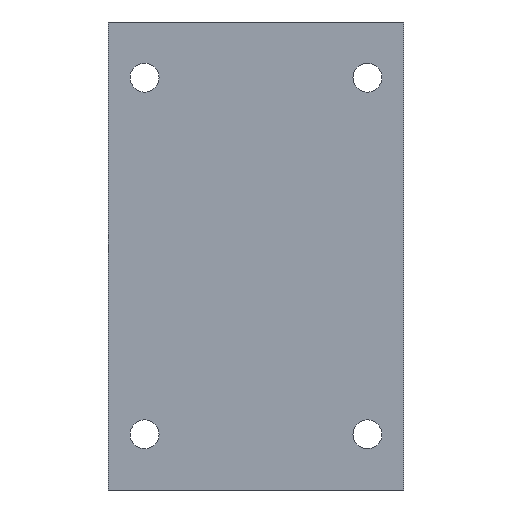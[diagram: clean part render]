
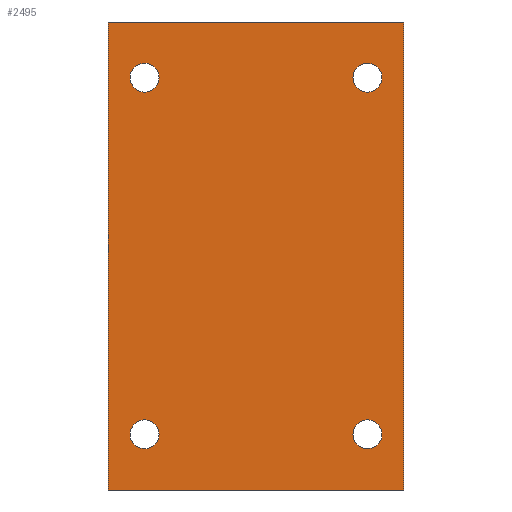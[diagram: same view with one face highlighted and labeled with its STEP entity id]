
A CAD part, front view. The second image highlights one B-rep face of the part: STEP entity #2495.
In plain terms, the highlighted planar face has unit normal (0, -1, 0).
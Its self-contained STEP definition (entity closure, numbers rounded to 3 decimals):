
#10 = CARTESIAN_POINT ( 'NONE',  ( -26.5, -17.5, -42. ) ) ;
#12 = EDGE_LOOP ( 'NONE', ( #207, #2662, #2355, #225 ) ) ;
#15 = VECTOR ( 'NONE', #2369, 1000. ) ;
#121 = ORIENTED_EDGE ( 'NONE', *, *, #1243, .F. ) ;
#182 = CARTESIAN_POINT ( 'NONE',  ( -26.5, -17.5, -42. ) ) ;
#189 = CARTESIAN_POINT ( 'NONE',  ( -26.5, -17.5, 42. ) ) ;
#205 = VECTOR ( 'NONE', #2877, 1000. ) ;
#207 = ORIENTED_EDGE ( 'NONE', *, *, #334, .T. ) ;
#223 = CIRCLE ( 'NONE', #1423, 2.6 ) ;
#225 = ORIENTED_EDGE ( 'NONE', *, *, #288, .T. ) ;
#257 = CARTESIAN_POINT ( 'NONE',  ( -26.5, -17.5, 42. ) ) ;
#288 = EDGE_CURVE ( 'NONE', #384, #3181, #1490, .T. ) ;
#334 = EDGE_CURVE ( 'NONE', #3181, #2097, #2582, .T. ) ;
#375 = VERTEX_POINT ( 'NONE', #1019 ) ;
#384 = VERTEX_POINT ( 'NONE', #1628 ) ;
#420 = AXIS2_PLACEMENT_3D ( 'NONE', #1408, #1914, #605 ) ;
#467 = LINE ( 'NONE', #3115, #2467 ) ;
#492 = CIRCLE ( 'NONE', #2410, 2.6 ) ;
#582 = DIRECTION ( 'NONE',  ( 0., 0., -1. ) ) ;
#605 = DIRECTION ( 'NONE',  ( 0., 0., -1. ) ) ;
#619 = DIRECTION ( 'NONE',  ( 0., 0., -1. ) ) ;
#632 = CARTESIAN_POINT ( 'NONE',  ( 20., -17.5, 29.4 ) ) ;
#688 = EDGE_CURVE ( 'NONE', #1696, #375, #1800, .T. ) ;
#691 = DIRECTION ( 'NONE',  ( 0., -1., 0. ) ) ;
#720 = EDGE_CURVE ( 'NONE', #384, #2177, #1064, .T. ) ;
#768 = PLANE ( 'NONE',  #2191 ) ;
#821 = CARTESIAN_POINT ( 'NONE',  ( 26.5, -17.5, -42. ) ) ;
#847 = DIRECTION ( 'NONE',  ( 0., -1., 0. ) ) ;
#871 = DIRECTION ( 'NONE',  ( 0., -1., 0. ) ) ;
#897 = ORIENTED_EDGE ( 'NONE', *, *, #3380, .F. ) ;
#919 = AXIS2_PLACEMENT_3D ( 'NONE', #3224, #847, #2261 ) ;
#920 = ORIENTED_EDGE ( 'NONE', *, *, #3244, .F. ) ;
#994 = CARTESIAN_POINT ( 'NONE',  ( 20., -17.5, -29.4 ) ) ;
#1019 = CARTESIAN_POINT ( 'NONE',  ( 20., -17.5, 34.6 ) ) ;
#1035 = DIRECTION ( 'NONE',  ( 0., -1., 0. ) ) ;
#1064 = LINE ( 'NONE', #3147, #205 ) ;
#1101 = CARTESIAN_POINT ( 'NONE',  ( 20., -17.5, 32. ) ) ;
#1102 = EDGE_CURVE ( 'NONE', #1927, #2142, #2180, .T. ) ;
#1131 = AXIS2_PLACEMENT_3D ( 'NONE', #2494, #2543, #1485 ) ;
#1185 = CARTESIAN_POINT ( 'NONE',  ( 20., -17.5, -34.6 ) ) ;
#1234 = VERTEX_POINT ( 'NONE', #994 ) ;
#1236 = EDGE_CURVE ( 'NONE', #2009, #3337, #2830, .T. ) ;
#1238 = VERTEX_POINT ( 'NONE', #1185 ) ;
#1243 = EDGE_CURVE ( 'NONE', #1238, #1234, #1464, .T. ) ;
#1280 = EDGE_LOOP ( 'NONE', ( #1990, #3036 ) ) ;
#1284 = FACE_BOUND ( 'NONE', #1756, .T. ) ;
#1303 = DIRECTION ( 'NONE',  ( 0., 1., 0. ) ) ;
#1349 = AXIS2_PLACEMENT_3D ( 'NONE', #3311, #691, #1729 ) ;
#1395 = ORIENTED_EDGE ( 'NONE', *, *, #1102, .F. ) ;
#1408 = CARTESIAN_POINT ( 'NONE',  ( -20., -17.5, 32. ) ) ;
#1423 = AXIS2_PLACEMENT_3D ( 'NONE', #2184, #871, #619 ) ;
#1464 = CIRCLE ( 'NONE', #1349, 2.6 ) ;
#1485 = DIRECTION ( 'NONE',  ( 0., 0., -1. ) ) ;
#1490 = LINE ( 'NONE', #189, #2751 ) ;
#1545 = FACE_OUTER_BOUND ( 'NONE', #12, .T. ) ;
#1566 = FACE_BOUND ( 'NONE', #1280, .T. ) ;
#1628 = CARTESIAN_POINT ( 'NONE',  ( -26.5, -17.5, 42. ) ) ;
#1696 = VERTEX_POINT ( 'NONE', #632 ) ;
#1729 = DIRECTION ( 'NONE',  ( 0., 0., -1. ) ) ;
#1756 = EDGE_LOOP ( 'NONE', ( #121, #920 ) ) ;
#1762 = EDGE_LOOP ( 'NONE', ( #2898, #897 ) ) ;
#1800 = CIRCLE ( 'NONE', #3250, 2.6 ) ;
#1890 = CARTESIAN_POINT ( 'NONE',  ( -20., -17.5, 34.6 ) ) ;
#1914 = DIRECTION ( 'NONE',  ( 0., -1., 0. ) ) ;
#1927 = VERTEX_POINT ( 'NONE', #2811 ) ;
#1944 = CARTESIAN_POINT ( 'NONE',  ( 26.5, -17.5, 42. ) ) ;
#1990 = ORIENTED_EDGE ( 'NONE', *, *, #2515, .F. ) ;
#2009 = VERTEX_POINT ( 'NONE', #2653 ) ;
#2030 = CIRCLE ( 'NONE', #919, 2.6 ) ;
#2097 = VERTEX_POINT ( 'NONE', #821 ) ;
#2142 = VERTEX_POINT ( 'NONE', #1890 ) ;
#2177 = VERTEX_POINT ( 'NONE', #1944 ) ;
#2180 = CIRCLE ( 'NONE', #420, 2.6 ) ;
#2184 = CARTESIAN_POINT ( 'NONE',  ( 20., -17.5, 32. ) ) ;
#2191 = AXIS2_PLACEMENT_3D ( 'NONE', #257, #1303, #2356 ) ;
#2261 = DIRECTION ( 'NONE',  ( 0., 0., -1. ) ) ;
#2338 = FACE_BOUND ( 'NONE', #3139, .T. ) ;
#2355 = ORIENTED_EDGE ( 'NONE', *, *, #720, .F. ) ;
#2356 = DIRECTION ( 'NONE',  ( 0., 0., 1. ) ) ;
#2369 = DIRECTION ( 'NONE',  ( 1., 0., 0. ) ) ;
#2373 = ORIENTED_EDGE ( 'NONE', *, *, #2740, .F. ) ;
#2410 = AXIS2_PLACEMENT_3D ( 'NONE', #3189, #3174, #582 ) ;
#2467 = VECTOR ( 'NONE', #2555, 1000. ) ;
#2494 = CARTESIAN_POINT ( 'NONE',  ( -20., -17.5, -32. ) ) ;
#2495 = ADVANCED_FACE ( 'NONE', ( #1545, #1284, #2338, #1566, #3111 ), #768, .F. ) ;
#2515 = EDGE_CURVE ( 'NONE', #3337, #2009, #2030, .T. ) ;
#2543 = DIRECTION ( 'NONE',  ( 0., -1., 0. ) ) ;
#2555 = DIRECTION ( 'NONE',  ( 0., 0., -1. ) ) ;
#2565 = DIRECTION ( 'NONE',  ( 0., 0., -1. ) ) ;
#2582 = LINE ( 'NONE', #10, #15 ) ;
#2642 = DIRECTION ( 'NONE',  ( 0., -1., 0. ) ) ;
#2653 = CARTESIAN_POINT ( 'NONE',  ( -20., -17.5, -29.4 ) ) ;
#2659 = DIRECTION ( 'NONE',  ( 0., 0., -1. ) ) ;
#2662 = ORIENTED_EDGE ( 'NONE', *, *, #3113, .F. ) ;
#2740 = EDGE_CURVE ( 'NONE', #2142, #1927, #2889, .T. ) ;
#2751 = VECTOR ( 'NONE', #2565, 1000. ) ;
#2811 = CARTESIAN_POINT ( 'NONE',  ( -20., -17.5, 29.4 ) ) ;
#2830 = CIRCLE ( 'NONE', #1131, 2.6 ) ;
#2833 = DIRECTION ( 'NONE',  ( 0., 0., -1. ) ) ;
#2877 = DIRECTION ( 'NONE',  ( 1., 0., 0. ) ) ;
#2889 = CIRCLE ( 'NONE', #3262, 2.6 ) ;
#2898 = ORIENTED_EDGE ( 'NONE', *, *, #688, .F. ) ;
#3010 = CARTESIAN_POINT ( 'NONE',  ( -20., -17.5, -34.6 ) ) ;
#3036 = ORIENTED_EDGE ( 'NONE', *, *, #1236, .F. ) ;
#3111 = FACE_BOUND ( 'NONE', #1762, .T. ) ;
#3113 = EDGE_CURVE ( 'NONE', #2177, #2097, #467, .T. ) ;
#3115 = CARTESIAN_POINT ( 'NONE',  ( 26.5, -17.5, 42. ) ) ;
#3139 = EDGE_LOOP ( 'NONE', ( #1395, #2373 ) ) ;
#3147 = CARTESIAN_POINT ( 'NONE',  ( -26.5, -17.5, 42. ) ) ;
#3174 = DIRECTION ( 'NONE',  ( 0., -1., 0. ) ) ;
#3181 = VERTEX_POINT ( 'NONE', #182 ) ;
#3189 = CARTESIAN_POINT ( 'NONE',  ( 20., -17.5, -32. ) ) ;
#3224 = CARTESIAN_POINT ( 'NONE',  ( -20., -17.5, -32. ) ) ;
#3244 = EDGE_CURVE ( 'NONE', #1234, #1238, #492, .T. ) ;
#3250 = AXIS2_PLACEMENT_3D ( 'NONE', #1101, #2642, #2659 ) ;
#3262 = AXIS2_PLACEMENT_3D ( 'NONE', #3315, #1035, #2833 ) ;
#3311 = CARTESIAN_POINT ( 'NONE',  ( 20., -17.5, -32. ) ) ;
#3315 = CARTESIAN_POINT ( 'NONE',  ( -20., -17.5, 32. ) ) ;
#3337 = VERTEX_POINT ( 'NONE', #3010 ) ;
#3380 = EDGE_CURVE ( 'NONE', #375, #1696, #223, .T. ) ;
